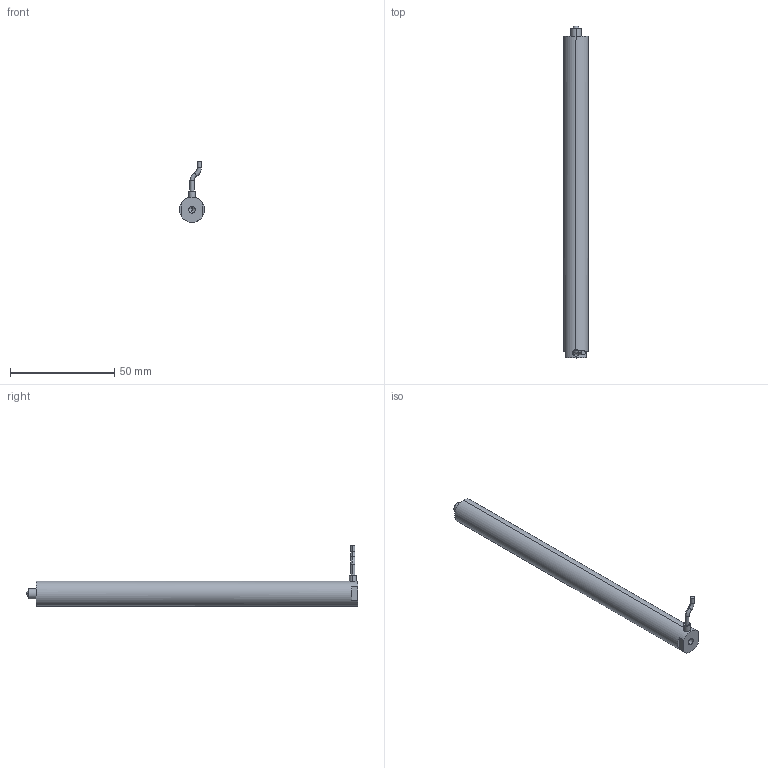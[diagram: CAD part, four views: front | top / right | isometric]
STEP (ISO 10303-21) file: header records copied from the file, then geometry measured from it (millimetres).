
FILE_DESCRIPTION (( 'STEP AP203' ), '1' );
FILE_NAME ('球头式160VS12.STEP', '2020-08-19T06:06:19', ( 'User' ), ( 'china' ), 'SwSTEP 2.0', 'SolidWorks 2016', '' );
FILE_SCHEMA (( 'CONFIG_CONTROL_DESIGN' ));
Length unit declared in the file: millimetre
Products named in the file (1): ⑩芛宒160VS12
Bounding box: 12 x 159.6 x 29.08 mm (x, y, z)
Volume: 17558 mm3; surface area: 6314.4 mm2
Topology: 1 solids, 1 shells, 933 faces, 2505 edges, 1666 vertices
Faces by surface type: bspline 513, plane 310, cylinder 102, torus 4, sphere 2, cone 2
Entity records: 43862 total; most frequent: CARTESIAN_POINT 25012, ORIENTED_EDGE 5006, EDGE_CURVE 2503, DIRECTION 1932, B_SPLINE_CURVE_WITH_KNOTS 1685, VERTEX_POINT 1666, EDGE_LOOP 1027, ADVANCED_FACE 933
